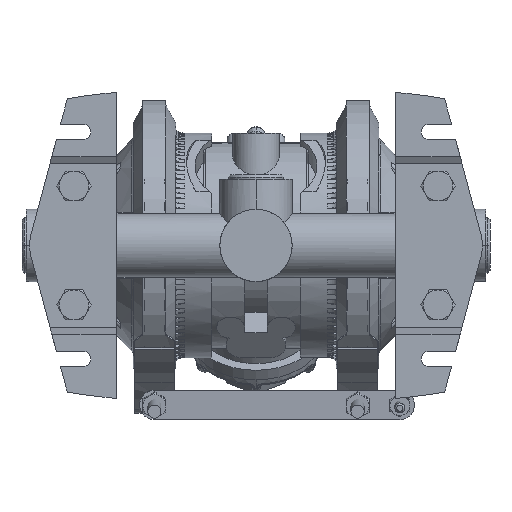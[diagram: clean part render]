
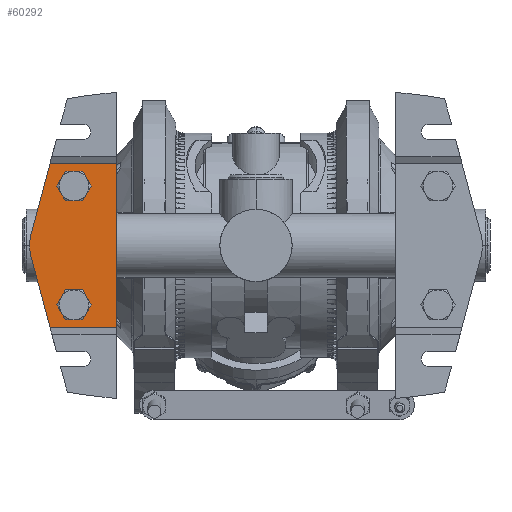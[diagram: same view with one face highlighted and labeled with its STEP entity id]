
A CAD part, front view. The second image highlights one B-rep face of the part: STEP entity #60292.
In plain terms, the highlighted planar face has unit normal (0, -1, 0).
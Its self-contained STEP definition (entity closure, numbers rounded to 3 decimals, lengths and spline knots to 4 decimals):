
#59793=DIRECTION('',(0.,0.,-1.));
#59794=VECTOR('',#59793,3.12);
#59795=CARTESIAN_POINT('',(-2.649,-4.8296,1.56));
#59796=LINE('',#59795,#59794);
#59875=DIRECTION('',(1.,0.,0.));
#59876=VECTOR('',#59875,1.2532);
#59877=CARTESIAN_POINT('',(-3.9022,-4.8296,-1.56));
#59878=LINE('',#59877,#59876);
#59879=DIRECTION('',(-0.259,0.,0.966));
#59880=VECTOR('',#59879,1.4007);
#59881=CARTESIAN_POINT('',(-3.9022,-4.8296,-1.56));
#59882=LINE('',#59881,#59880);
#59883=CARTESIAN_POINT('',(-3.492,-4.8296,0.));
#59884=DIRECTION('',(0.,-1.,0.));
#59885=DIRECTION('',(-0.966,0.,0.259));
#59886=AXIS2_PLACEMENT_3D('',#59883,#59884,#59885);
#59888=DIRECTION('',(-0.259,0.,-0.966));
#59889=VECTOR('',#59888,1.4007);
#59890=CARTESIAN_POINT('',(-3.9022,-4.8296,1.56));
#59891=LINE('',#59890,#59889);
#59892=DIRECTION('',(1.,0.,0.));
#59893=VECTOR('',#59892,1.2532);
#59894=CARTESIAN_POINT('',(-3.9022,-4.8296,1.56));
#59895=LINE('',#59894,#59893);
#60056=CARTESIAN_POINT('',(-2.649,-4.8296,1.56));
#60058=VERTEX_POINT('',#60056);
#60059=CARTESIAN_POINT('',(-2.649,-4.8296,-1.56));
#60060=VERTEX_POINT('',#60059);
#60080=CARTESIAN_POINT('',(-3.9022,-4.8296,1.56));
#60082=VERTEX_POINT('',#60080);
#60083=CARTESIAN_POINT('',(-3.9022,-4.8296,-1.56));
#60084=CARTESIAN_POINT('',(-4.2647,-4.8296,-0.2071));
#60085=VERTEX_POINT('',#60083);
#60086=VERTEX_POINT('',#60084);
#60087=CARTESIAN_POINT('',(-4.2647,-4.8296,0.2071));
#60088=VERTEX_POINT('',#60087);
#60276=CARTESIAN_POINT('',(-4.349,-4.8296,1.56));
#60277=DIRECTION('',(0.,-1.,0.));
#60278=DIRECTION('',(0.,0.,-1.));
#60279=AXIS2_PLACEMENT_3D('',#60276,#60277,#60278);
#60280=PLANE('',#60279);
#60281=ORIENTED_EDGE('',*,*,#60205,.T.);
#60283=ORIENTED_EDGE('',*,*,#60282,.F.);
#60285=ORIENTED_EDGE('',*,*,#60284,.F.);
#60287=ORIENTED_EDGE('',*,*,#60286,.T.);
#60288=ORIENTED_EDGE('',*,*,#60154,.T.);
#60289=ORIENTED_EDGE('',*,*,#60269,.F.);
#60290=EDGE_LOOP('',(#60281,#60283,#60285,#60287,#60288,#60289));
#60291=FACE_OUTER_BOUND('',#60290,.F.);
#60292=ADVANCED_FACE('',(#60291),#60280,.T.);
#59887=CIRCLE('',#59886,0.8);
#60154=EDGE_CURVE('',#60058,#60060,#59796,.T.);
#60205=EDGE_CURVE('',#60085,#60086,#59882,.T.);
#60269=EDGE_CURVE('',#60085,#60060,#59878,.T.);
#60282=EDGE_CURVE('',#60088,#60086,#59887,.T.);
#60284=EDGE_CURVE('',#60082,#60088,#59891,.T.);
#60286=EDGE_CURVE('',#60082,#60058,#59895,.T.);
